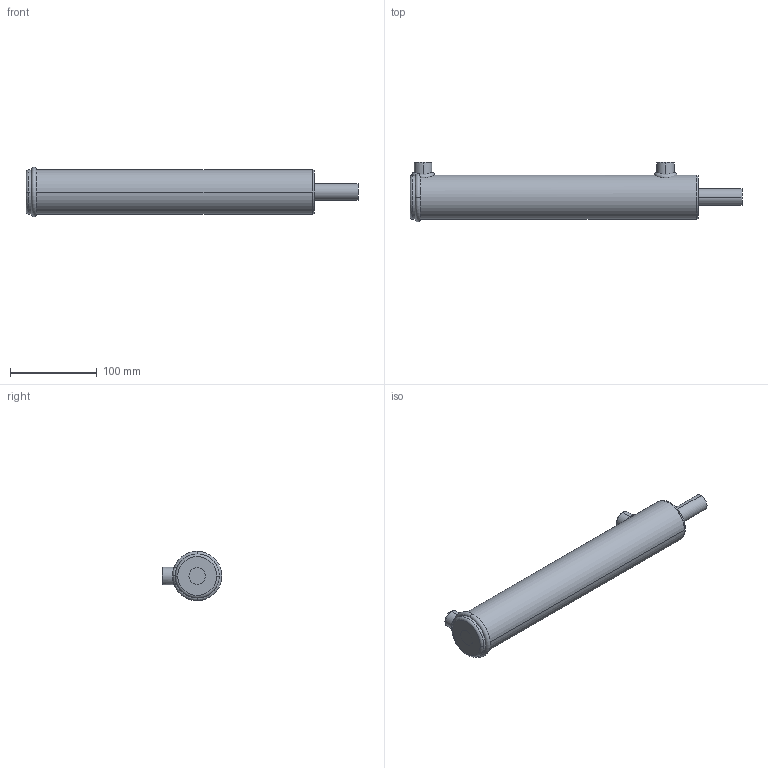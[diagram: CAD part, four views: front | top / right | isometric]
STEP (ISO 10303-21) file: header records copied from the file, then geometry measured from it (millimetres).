
FILE_DESCRIPTION (( 'STEP AP203' ), '1' );
FILE_NAME ('BL150075x254 (10).STEP', '2014-11-23T02:11:59', ( '' ), ( '' ), 'SwSTEP 2.0', 'SolidWorks 2014', '' );
FILE_SCHEMA (( 'CONFIG_CONTROL_DESIGN' ));
Length unit declared in the file: millimetre
Products named in the file (1): BL150075x254 (10)
Bounding box: 382 x 68.8 x 56.8 mm (x, y, z)
Volume: 596584.8 mm3; surface area: 84934.6 mm2
Topology: 2 solids, 2 shells, 64 faces, 146 edges, 90 vertices
Faces by surface type: cylinder 20, torus 16, plane 12, bspline 8, cone 8
Entity records: 4329 total; most frequent: CARTESIAN_POINT 2883, DIRECTION 288, ORIENTED_EDGE 284, EDGE_CURVE 142, AXIS2_PLACEMENT_3D 130, VERTEX_POINT 90, CIRCLE 73, EDGE_LOOP 72
